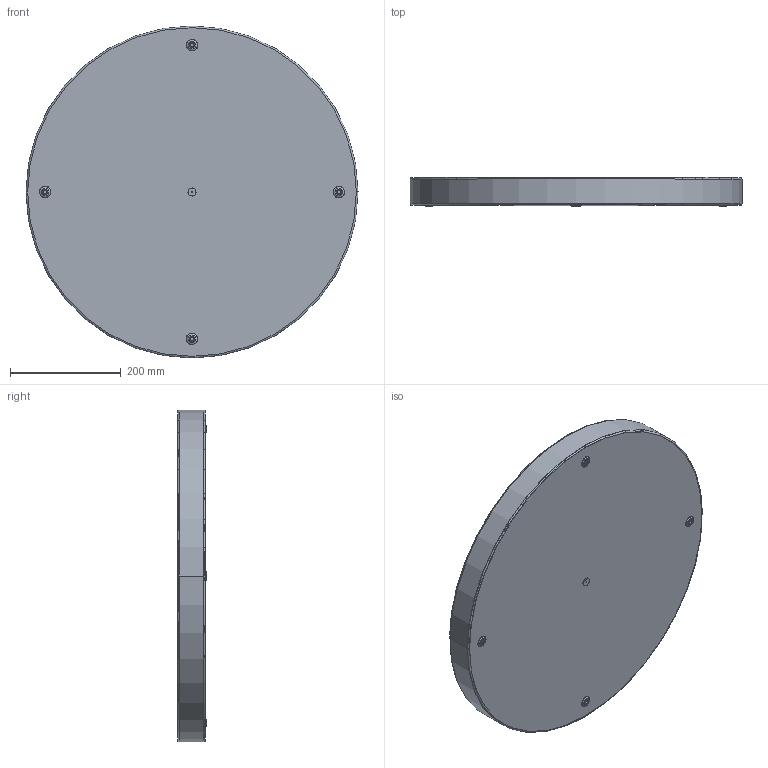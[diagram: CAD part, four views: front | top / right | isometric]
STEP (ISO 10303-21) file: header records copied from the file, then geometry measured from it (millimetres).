
FILE_DESCRIPTION((''),'2;1');
FILE_NAME('KL-D600-72W_ASM','2025-11-20T11:46:04',('Administrator'),(''),'CREO PARAMETRIC BY PTC INC, 2021164','CREO PARAMETRIC BY PTC INC, 2021164','');
FILE_SCHEMA(('CONFIG_CONTROL_DESIGN','SHAPE_APPEARANCE_LAYERS_GROUPS'));
Length unit declared in the file: millimetre
Products named in the file (4): PRT0001____5; PRT0002____2; 600_ASM_8_ASM; KL-D600-72W_ASM
Assembly tree (3 placements, depth 3):
  KL-D600-72W_ASM
    600_ASM_8_ASM
      PRT0001____5
      PRT0002____2
Bounding box: 600 x 52.2 x 600 mm (x, y, z)
Volume: 704646.8 mm3; surface area: 1332492 mm2
Topology: 2 solids, 2 shells, 65 faces, 200 edges, 146 vertices
Faces by surface type: torus 26, cylinder 20, plane 11, cone 8
Entity records: 3608 total; most frequent: DIRECTION 520, CARTESIAN_POINT 420, ORIENTED_EDGE 400, PRESENTATION_STYLE_ASSIGNMENT 263, STYLED_ITEM 263, AXIS2_PLACEMENT_3D 246, CURVE_STYLE 200, EDGE_CURVE 200
